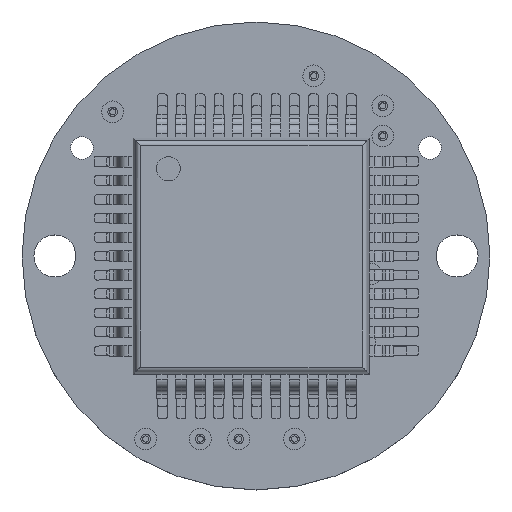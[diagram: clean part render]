
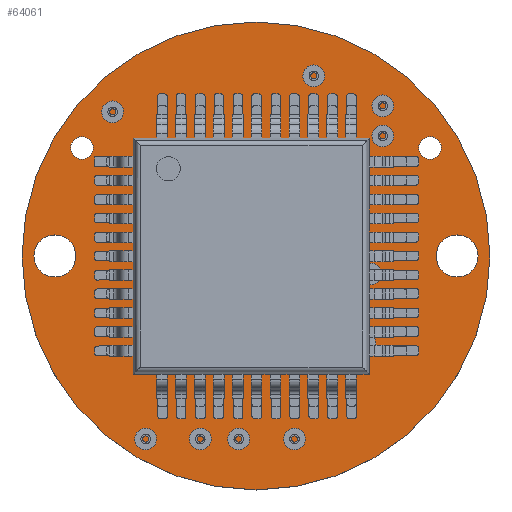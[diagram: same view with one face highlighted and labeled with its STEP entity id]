
A CAD part, top view. The second image highlights one B-rep face of the part: STEP entity #64061.
In plain terms, the highlighted planar face has unit normal (0, 0, 1).
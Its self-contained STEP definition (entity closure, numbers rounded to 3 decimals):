
#469 = CARTESIAN_POINT ( 'NONE',  ( 36.297, 19.812, 0. ) ) ;
#3031 = DIRECTION ( 'NONE',  ( -1., 0., 0. ) ) ;
#3077 = AXIS2_PLACEMENT_3D ( 'NONE', #140711, #69116, #152691 ) ;
#3891 = VERTEX_POINT ( 'NONE', #469 ) ;
#4763 = DIRECTION ( 'NONE',  ( -1., 0., 0. ) ) ;
#5889 = PLANE ( 'NONE',  #120814 ) ;
#11542 = EDGE_LOOP ( 'NONE', ( #153225, #40048 ) ) ;
#11707 = AXIS2_PLACEMENT_3D ( 'NONE', #133374, #61626, #145306 ) ;
#13905 = AXIS2_PLACEMENT_3D ( 'NONE', #110915, #39163, #122953 ) ;
#14064 = CARTESIAN_POINT ( 'NONE',  ( 50.063, 19.812, 0. ) ) ;
#18448 = DIRECTION ( 'NONE',  ( 0., 0., -1. ) ) ;
#18722 = CIRCLE ( 'NONE', #25825, 0.889 ) ;
#20772 = FACE_BOUND ( 'NONE', #124639, .T. ) ;
#21046 = VERTEX_POINT ( 'NONE', #32667 ) ;
#21204 = AXIS2_PLACEMENT_3D ( 'NONE', #146550, #75036, #3031 ) ;
#25825 = AXIS2_PLACEMENT_3D ( 'NONE', #148329, #76764, #4763 ) ;
#27460 = CARTESIAN_POINT ( 'NONE',  ( 50.546, 19.812, 0. ) ) ;
#29730 = ORIENTED_EDGE ( 'NONE', *, *, #103191, .T. ) ;
#29870 = DIRECTION ( 'NONE',  ( 0., 0., -1. ) ) ;
#31412 = CARTESIAN_POINT ( 'NONE',  ( 50.8, 15.24, 0. ) ) ;
#32389 = VERTEX_POINT ( 'NONE', #83892 ) ;
#32667 = CARTESIAN_POINT ( 'NONE',  ( 33.28, 15.24, 0. ) ) ;
#33365 = CIRCLE ( 'NONE', #43236, 0.483 ) ;
#35180 = EDGE_LOOP ( 'NONE', ( #67533, #29730 ) ) ;
#35585 = EDGE_CURVE ( 'NONE', #112882, #125713, #147006, .T. ) ;
#36797 = CIRCLE ( 'NONE', #80154, 0.889 ) ;
#37495 = CARTESIAN_POINT ( 'NONE',  ( 51.029, 19.812, 0. ) ) ;
#37839 = ORIENTED_EDGE ( 'NONE', *, *, #148048, .F. ) ;
#39163 = DIRECTION ( 'NONE',  ( 0., 0., -1. ) ) ;
#39561 = DIRECTION ( 'NONE',  ( -1., 0., 0. ) ) ;
#40048 = ORIENTED_EDGE ( 'NONE', *, *, #87408, .T. ) ;
#42576 = CIRCLE ( 'NONE', #135386, 0.483 ) ;
#42644 = CIRCLE ( 'NONE', #3077, 9.9 ) ;
#43236 = AXIS2_PLACEMENT_3D ( 'NONE', #27460, #111303, #39561 ) ;
#52776 = FACE_BOUND ( 'NONE', #35180, .T. ) ;
#53840 = ORIENTED_EDGE ( 'NONE', *, *, #99902, .F. ) ;
#54576 = AXIS2_PLACEMENT_3D ( 'NONE', #132886, #61120, #144837 ) ;
#55472 = CIRCLE ( 'NONE', #54576, 0.483 ) ;
#59276 = EDGE_LOOP ( 'NONE', ( #37839, #53840 ) ) ;
#59886 = VERTEX_POINT ( 'NONE', #14064 ) ;
#60540 = DIRECTION ( 'NONE',  ( 0., 0., -1. ) ) ;
#61120 = DIRECTION ( 'NONE',  ( 0., 0., -1. ) ) ;
#61626 = DIRECTION ( 'NONE',  ( 0., 0., -1. ) ) ;
#64061 = ADVANCED_FACE ( 'NONE', ( #20772, #52776, #116471, #144498, #112707 ), #5889, .F. ) ;
#66488 = EDGE_CURVE ( 'NONE', #88602, #32389, #79778, .T. ) ;
#67533 = ORIENTED_EDGE ( 'NONE', *, *, #66488, .T. ) ;
#69116 = DIRECTION ( 'NONE',  ( 0., 0., -1. ) ) ;
#71615 = DIRECTION ( 'NONE',  ( 0., 0., -1. ) ) ;
#72928 = ORIENTED_EDGE ( 'NONE', *, *, #151672, .T. ) ;
#75036 = DIRECTION ( 'NONE',  ( 0., 0., -1. ) ) ;
#76764 = DIRECTION ( 'NONE',  ( 0., 0., -1. ) ) ;
#76917 = CARTESIAN_POINT ( 'NONE',  ( 35.331, 19.812, 0. ) ) ;
#79778 = CIRCLE ( 'NONE', #11707, 0.889 ) ;
#80154 = AXIS2_PLACEMENT_3D ( 'NONE', #132275, #60540, #144251 ) ;
#80653 = VERTEX_POINT ( 'NONE', #76917 ) ;
#83892 = CARTESIAN_POINT ( 'NONE',  ( 52.578, 15.24, 0. ) ) ;
#85794 = EDGE_CURVE ( 'NONE', #59886, #116033, #33365, .T. ) ;
#87408 = EDGE_CURVE ( 'NONE', #3891, #80653, #135472, .T. ) ;
#88602 = VERTEX_POINT ( 'NONE', #31412 ) ;
#90422 = CARTESIAN_POINT ( 'NONE',  ( 53.08, 15.24, 0. ) ) ;
#94374 = CARTESIAN_POINT ( 'NONE',  ( 33.782, 15.24, 0. ) ) ;
#97253 = EDGE_CURVE ( 'NONE', #125713, #112882, #36797, .T. ) ;
#99902 = EDGE_CURVE ( 'NONE', #109092, #21046, #154435, .T. ) ;
#101709 = CARTESIAN_POINT ( 'NONE',  ( 35.814, 19.812, 0. ) ) ;
#102406 = DIRECTION ( 'NONE',  ( -1., 0., 0. ) ) ;
#103191 = EDGE_CURVE ( 'NONE', #32389, #88602, #18722, .T. ) ;
#105139 = EDGE_LOOP ( 'NONE', ( #125433, #132049 ) ) ;
#106608 = CARTESIAN_POINT ( 'NONE',  ( 53.08, 15.24, 0. ) ) ;
#109092 = VERTEX_POINT ( 'NONE', #106608 ) ;
#110915 = CARTESIAN_POINT ( 'NONE',  ( 34.671, 15.24, 0. ) ) ;
#111303 = DIRECTION ( 'NONE',  ( 0., 0., -1. ) ) ;
#111839 = AXIS2_PLACEMENT_3D ( 'NONE', #101709, #29870, #113689 ) ;
#112707 = FACE_OUTER_BOUND ( 'NONE', #59276, .T. ) ;
#112882 = VERTEX_POINT ( 'NONE', #120687 ) ;
#113689 = DIRECTION ( 'NONE',  ( -1., 0., 0. ) ) ;
#116033 = VERTEX_POINT ( 'NONE', #37495 ) ;
#116471 = FACE_BOUND ( 'NONE', #11542, .T. ) ;
#120687 = CARTESIAN_POINT ( 'NONE',  ( 35.56, 15.24, 0. ) ) ;
#120814 = AXIS2_PLACEMENT_3D ( 'NONE', #90422, #18448, #102406 ) ;
#122953 = DIRECTION ( 'NONE',  ( -1., 0., 0. ) ) ;
#124639 = EDGE_LOOP ( 'NONE', ( #142437, #72928 ) ) ;
#125433 = ORIENTED_EDGE ( 'NONE', *, *, #97253, .T. ) ;
#125713 = VERTEX_POINT ( 'NONE', #94374 ) ;
#130025 = EDGE_CURVE ( 'NONE', #80653, #3891, #55472, .T. ) ;
#132049 = ORIENTED_EDGE ( 'NONE', *, *, #35585, .T. ) ;
#132275 = CARTESIAN_POINT ( 'NONE',  ( 34.671, 15.24, 0. ) ) ;
#132886 = CARTESIAN_POINT ( 'NONE',  ( 35.814, 19.812, 0. ) ) ;
#133374 = CARTESIAN_POINT ( 'NONE',  ( 51.689, 15.24, 0. ) ) ;
#135386 = AXIS2_PLACEMENT_3D ( 'NONE', #143135, #71615, #155204 ) ;
#135472 = CIRCLE ( 'NONE', #111839, 0.483 ) ;
#140711 = CARTESIAN_POINT ( 'NONE',  ( 43.18, 15.24, 0. ) ) ;
#142437 = ORIENTED_EDGE ( 'NONE', *, *, #85794, .T. ) ;
#143135 = CARTESIAN_POINT ( 'NONE',  ( 50.546, 19.812, 0. ) ) ;
#144251 = DIRECTION ( 'NONE',  ( -1., 0., 0. ) ) ;
#144498 = FACE_BOUND ( 'NONE', #105139, .T. ) ;
#144837 = DIRECTION ( 'NONE',  ( -1., 0., 0. ) ) ;
#145306 = DIRECTION ( 'NONE',  ( -1., 0., 0. ) ) ;
#146550 = CARTESIAN_POINT ( 'NONE',  ( 43.18, 15.24, 0. ) ) ;
#147006 = CIRCLE ( 'NONE', #13905, 0.889 ) ;
#148048 = EDGE_CURVE ( 'NONE', #21046, #109092, #42644, .T. ) ;
#148329 = CARTESIAN_POINT ( 'NONE',  ( 51.689, 15.24, 0. ) ) ;
#151672 = EDGE_CURVE ( 'NONE', #116033, #59886, #42576, .T. ) ;
#152691 = DIRECTION ( 'NONE',  ( -1., 0., 0. ) ) ;
#153225 = ORIENTED_EDGE ( 'NONE', *, *, #130025, .T. ) ;
#154435 = CIRCLE ( 'NONE', #21204, 9.9 ) ;
#155204 = DIRECTION ( 'NONE',  ( -1., 0., 0. ) ) ;
